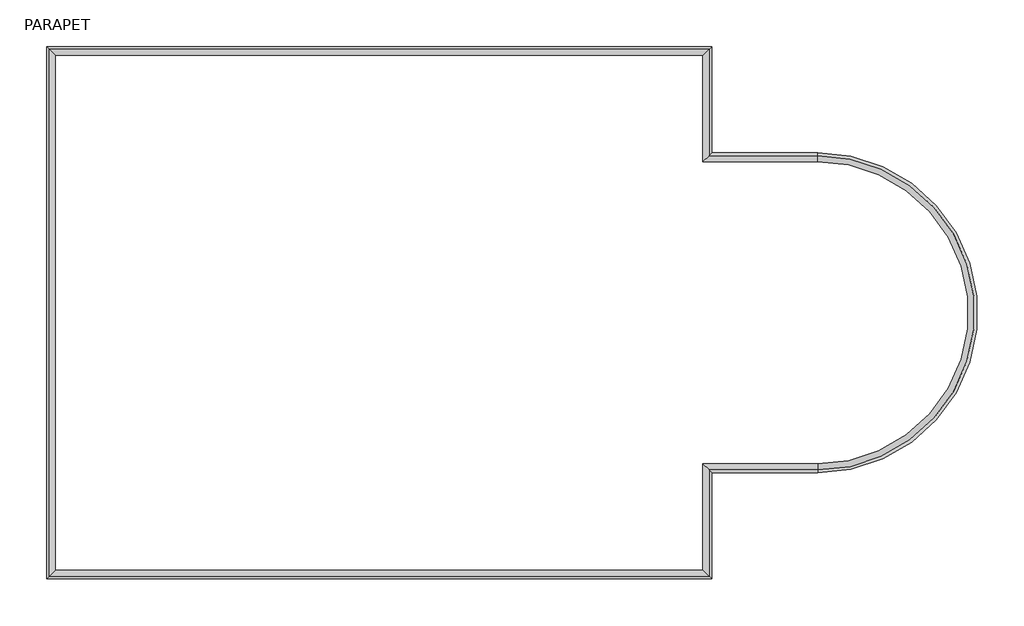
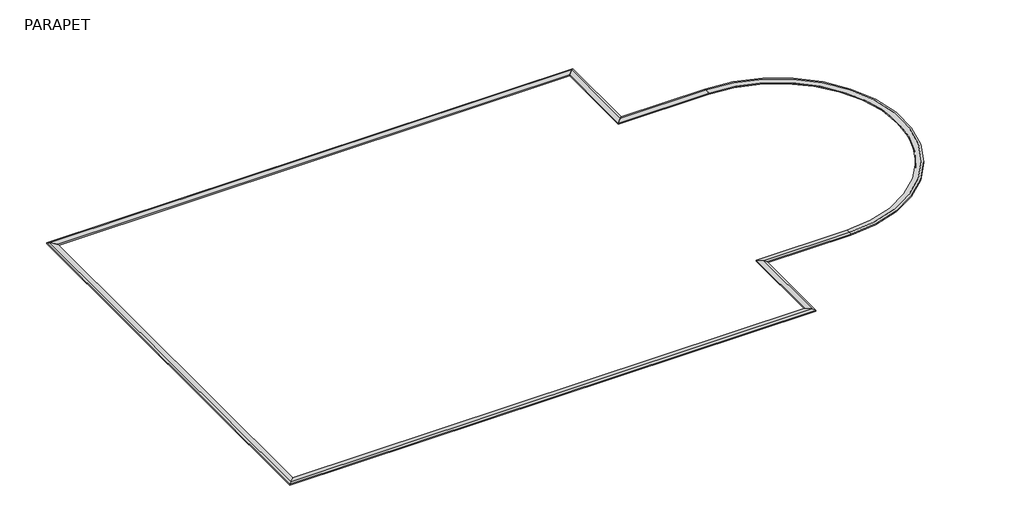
# One storey: 8 proxies.
"""IFC4 building model written with IfcOpenShell, lengths in millimetres."""

import ifcopenshell
import ifcopenshell.guid

model = None  # the IFC model being written
_history = None  # IfcOwnerHistory: only IFC2X3 demands one
_inside = {}  # id of a spatial element -> (the spatial element, [elements in it])
_under = {}  # id of a project, library or spatial element -> (it, [spatial elements below it])
_declared = {}  # id of a project -> (the project, [libraries it declares])
_typed = {}  # id of a type object -> (the type object, [elements of that type])
_made_of = {}  # id of a material, layer set ... -> (it, [elements and type objects made of it])


def new_model(schema):
    """Start an empty IFC model of exactly this schema.

    Asked for "IFC4X3", IfcOpenShell would pick the latest addendum, in which some entities
    have other attributes; the version numbers below select the first issue.
    IFC2X3 requires an IfcOwnerHistory on every rooted entity: one is made here for all.
    """
    global model, _history
    if schema == "IFC4X3":
        model = ifcopenshell.file(schema_version=(4, 3, 0, 0))
    else:
        model = ifcopenshell.file(schema=schema)
    _inside.clear()
    _under.clear()
    _declared.clear()
    _typed.clear()
    _made_of.clear()
    _history = None
    if model.schema == "IFC2X3":
        org = make("IfcOrganization", Name="unknown")
        user = make(
            "IfcPersonAndOrganization",
            ThePerson=make("IfcPerson", FamilyName="unknown"),
            TheOrganization=org,
        )
        app = make(
            "IfcApplication",
            ApplicationDeveloper=org,
            Version="unknown",
            ApplicationFullName="unknown",
            ApplicationIdentifier="unknown",
        )
        _history = make(
            "IfcOwnerHistory",
            OwningUser=user,
            OwningApplication=app,
            ChangeAction="ADDED",
            CreationDate=0,
        )
    return model


def make(cls, **values):
    """One entity of the class cls with the attributes given. An attribute that is None is left unset."""
    return model.create_entity(
        cls, **{name: value for name, value in values.items() if value is not None}
    )


def rooted(cls, **values):
    """An entity with a GlobalId (a new one), such as an element, a storey or a relation."""
    return make(cls, GlobalId=ifcopenshell.guid.new(), OwnerHistory=_history, **values)


def si_unit(unit_type, name, prefix=None):
    """IfcSIUnit, for example si_unit("LENGTHUNIT", "METRE", prefix="MILLI")."""
    return make("IfcSIUnit", UnitType=unit_type, Prefix=prefix, Name=name)


def assignment(units):
    """IfcUnitAssignment: the units of a project."""
    return None if units is None else make("IfcUnitAssignment", Units=units)


def point(xyz):
    """IfcCartesianPoint."""
    return None if xyz is None else make("IfcCartesianPoint", Coordinates=xyz)


def direction(xyz):
    """IfcDirection."""
    return None if xyz is None else make("IfcDirection", DirectionRatios=xyz)


def frame(location, z_axis=None, x_axis=None):
    """IfcAxis2Placement3D, a coordinate frame: its origin and axes. An axis left out is left unset."""
    return make(
        "IfcAxis2Placement3D",
        Location=point(location),
        Axis=direction(z_axis),
        RefDirection=direction(x_axis),
    )


def origin():
    """The frame at (0, 0, 0) with its axes left unset."""
    return frame((0.0, 0.0, 0.0))


def place(relative_to, where):
    """IfcLocalPlacement: puts the frame where relative to a parent placement (None: the world)."""
    return make(
        "IfcLocalPlacement", PlacementRelTo=relative_to, RelativePlacement=where
    )


def context(
    kind, dimensions, precision=None, world=None, true_north=None, identifier=None
):
    """IfcGeometricRepresentationContext, for example the 3D "Model" context."""
    return make(
        "IfcGeometricRepresentationContext",
        ContextIdentifier=identifier,
        ContextType=kind,
        CoordinateSpaceDimension=dimensions,
        Precision=precision,
        WorldCoordinateSystem=world,
        TrueNorth=true_north,
    )


def project(units=None, contexts=None):
    """IfcProject with its units and contexts."""
    return rooted(
        "IfcProject",
        Name="project",
        RepresentationContexts=contexts,
        UnitsInContext=assignment(units),
    )


def spatial(cls, under=None, at=None, **own):
    """A site, building, storey or space (cls), placed at a placement, below another one or the project."""
    s = rooted(cls, ObjectPlacement=at, **own)
    if under is not None:
        _under.setdefault(under.id(), (under, []))[1].append(s)
    return s


def polyline(points):
    """IfcPolyline through the points."""
    return make("IfcPolyline", Points=[point(p) for p in points])


def circle_curve(where, radius):
    """IfcCircle in the frame where."""
    return make("IfcCircle", Position=where, Radius=radius)


def faces_of(points, faces, orient=None, outer=None):
    """IfcFace entities. A face is a list of loops; a loop is a list of indices into points, from 0.

    orient and outer hold one flag for each loop. By default every Orientation is true, the
    first loop of a face is its IfcFaceOuterBound and the others are IfcFaceBound.
    """
    made = []
    for i, loops in enumerate(faces):
        bounds = []
        for j, loop in enumerate(loops):
            is_outer = j == 0 if outer is None else outer[i][j]
            bounds.append(
                make(
                    "IfcFaceOuterBound" if is_outer else "IfcFaceBound",
                    Bound=make("IfcPolyLoop", Polygon=[points[k] for k in loop]),
                    Orientation=True if orient is None else orient[i][j],
                )
            )
        made.append(make("IfcFace", Bounds=bounds))
    return made


def faceted_brep(points, faces, orient=None, outer=None, voids=None):
    """IfcFacetedBrep: a solid bounded by flat faces; with voids (closed shells), ...WithVoids."""
    shared = [point(p) for p in points]
    hull = make("IfcClosedShell", CfsFaces=faces_of(shared, faces, orient, outer))
    if voids is None:
        return make("IfcFacetedBrep", Outer=hull)
    return make(
        "IfcFacetedBrepWithVoids",
        Outer=hull,
        Voids=[
            make(cls, CfsFaces=faces_of(shared, fs, o, b)) for cls, fs, o, b in voids
        ],
    )


def shape(context_of_items, identifier, shape_type, items):
    """IfcShapeRepresentation: the items that make up one representation, for example the "Body"."""
    return make(
        "IfcShapeRepresentation",
        ContextOfItems=context_of_items,
        RepresentationIdentifier=identifier,
        RepresentationType=shape_type,
        Items=items,
    )


def made_of(thing, what):
    """Note that an element or type object is made of a material, layer set ...; save() writes the relation."""
    if what is not None:
        _made_of.setdefault(what.id(), (what, []))[1].append(thing)
    return thing


def element(
    cls,
    number,
    at=None,
    inside=None,
    cuts=None,
    type_object=None,
    material=None,
    context=None,
    identifier="Body",
    shape_type=None,
    held_by="IfcProductDefinitionShape",
    body=None,
    shapes=None,
    **own,
):
    """One element of the class cls, such as IfcWall. Its Tag is "e" and its number.

    at: its placement. inside: the storey or other place that contains it. cuts: it is an
    opening in that element (IfcRelVoidsElement). A single representation is given by context,
    identifier, shape_type and body (its items); several are given by shapes. held_by: the class
    of the entity that holds the representations. save() writes the other relations.
    """
    e = rooted(cls, Tag="e%d" % number, ObjectPlacement=at, **own)
    if body is not None:
        shapes = [shape(context, identifier, shape_type, body)]
    if shapes is not None:
        e.Representation = make(held_by, Representations=shapes)
    if inside is not None:
        _inside.setdefault(inside.id(), (inside, []))[1].append(e)
    if cuts is not None:
        rooted(
            "IfcRelVoidsElement", RelatingBuildingElement=cuts, RelatedOpeningElement=e
        )
    if type_object is not None:
        _typed.setdefault(type_object.id(), (type_object, []))[1].append(e)
    return made_of(e, material)


def aggregate(whole, parts):
    """IfcRelAggregates: a whole, such as a stair, and the parts it consists of."""
    return rooted("IfcRelAggregates", RelatingObject=whole, RelatedObjects=parts)


def save(model, path):
    """Write the relations noted so far, then the file.

    IfcRelAggregates (storeys below a building ...), IfcRelContainedInSpatialStructure (elements
    in a storey), IfcRelDefinesByType, IfcRelAssociatesMaterial and IfcRelDeclares: one each for
    every whole, place, type object, material and project.
    """
    for whole, parts in _under.values():
        aggregate(whole, parts)
    for where, things in _inside.values():
        rooted(
            "IfcRelContainedInSpatialStructure",
            RelatedElements=things,
            RelatingStructure=where,
        )
    for kind, things in _typed.values():
        rooted("IfcRelDefinesByType", RelatedObjects=things, RelatingType=kind)
    for what, things in _made_of.values():
        rooted("IfcRelAssociatesMaterial", RelatedObjects=things, RelatingMaterial=what)
    for by, libraries in _declared.values():
        rooted("IfcRelDeclares", RelatingContext=by, RelatedDefinitions=libraries)
    model.write(path)


def plane_surface(at):
    """IfcPlane: the flat surface through the origin of the frame at, square to its z axis."""
    return make("IfcPlane", Position=at)


def cylinder_surface(at, radius):
    """IfcCylindricalSurface: all points at the distance radius from the z axis of the frame at."""
    return make("IfcCylindricalSurface", Position=at, Radius=radius)


def revolved_surface(curve, axis_point, axis_direction):
    """IfcSurfaceOfRevolution: the curve turned about the line through axis_point along axis_direction."""
    return make(
        "IfcSurfaceOfRevolution",
        SweptCurve=make("IfcArbitraryOpenProfileDef", ProfileType="CURVE", Curve=curve),
        AxisPosition=make("IfcAxis1Placement", Location=point(axis_point), Axis=direction(axis_direction)),
    )


def advanced_brep(points, edges, surfaces, faces):
    """IfcAdvancedBrep: a solid bounded by faces that lie on surfaces and meet in shared edges.

    An edge is (start, end): straight between two places in points (the first is 0);
    or (start, end, curve); or (start, end, curve, False) where it runs against its curve.
    A face is (place in surfaces, loops), or (place, loops, False) where it looks against
    its surface's normal. A loop lists edges by number (the first is 1), with a minus sign
    where the edge is run from its end to its start. The first loop is the outer one.
    """
    corners = [point(p) for p in points]
    vertices = [make("IfcVertexPoint", VertexGeometry=c) for c in corners]
    made = []
    for start, end, *more in edges:
        made.append(
            make(
                "IfcEdgeCurve",
                EdgeStart=vertices[start],
                EdgeEnd=vertices[end],
                EdgeGeometry=more[0] if more else make("IfcPolyline", Points=[corners[start], corners[end]]),
                SameSense=more[1] if len(more) > 1 else True,
            )
        )
    hull = []
    for where, loops, *sense in faces:
        bounds = []
        for j, loop in enumerate(loops):
            ring = [make("IfcOrientedEdge", EdgeElement=made[abs(k) - 1], Orientation=k > 0) for k in loop]
            bounds.append(
                make(
                    "IfcFaceOuterBound" if j == 0 else "IfcFaceBound",
                    Bound=make("IfcEdgeLoop", EdgeList=ring),
                    Orientation=True,
                )
            )
        hull.append(make("IfcAdvancedFace", Bounds=bounds, FaceSurface=surfaces[where], SameSense=sense[0] if sense else True))
    return make("IfcAdvancedBrep", Outer=make("IfcClosedShell", CfsFaces=hull))


model = new_model("IFC4")

# Units and contexts
model_context = context("Model", 3, world=origin())
ifc_project = project(units=[si_unit("LENGTHUNIT", "METRE", prefix="MILLI")], contexts=[model_context])

# Site, building, storey
site = spatial("IfcSite", under=ifc_project)
building = spatial("IfcBuilding", under=site)
storey = spatial("IfcBuildingStorey", under=building, Name="PARAPET", Elevation=19507.2)

# Proxies
placement = place(None, origin())
element("IfcBuildingElementProxy", 1, Name="Wall Sweeps", at=placement, inside=storey, context=model_context, shape_type="Brep", body=[
    faceted_brep([(12680.1339721, -14316.8101681, 19570.7), (12959.5339721, -14596.2101681, 19608.8), (13086.5339721, -14723.2101681, 19570.7), (13086.5339721, -14723.2101681, 19507.2), (12680.1339721, -14316.8101681, 19507.2), (-17037.8660279, -14316.8101681, 19570.7), (-17037.8660279, -14316.8101681, 19507.2), (-17444.2660279, -14723.2101681, 19507.2), (-17444.2660279, -14723.2101681, 19570.7), (-17317.2660279, -14596.2101681, 19608.8)], [[[0, 1, 2, 3, 4]], [[5, 6, 7, 8, 9]], [[1, 0, 5, 9]], [[2, 1, 9, 8]], [[3, 2, 8, 7]], [[4, 3, 7, 6]], [[0, 4, 6, 5]]]),
])
element("IfcBuildingElementProxy", 2, Name="Wall Sweeps", at=placement, inside=storey, context=model_context, shape_type="Brep", body=[
    faceted_brep([(-17037.8660279, -14316.8101681, 19570.7), (-17317.2660279, -14596.2101681, 19608.8), (-17444.2660279, -14723.2101681, 19570.7), (-17444.2660279, -14723.2101681, 19507.2), (-17037.8660279, -14316.8101681, 19507.2), (-17037.8660279, 9305.1898319, 19570.7), (-17037.8660279, 9305.1898319, 19507.2), (-17444.2660279, 9711.5898319, 19507.2), (-17444.2660279, 9711.5898319, 19570.7), (-17317.2660279, 9584.5898319, 19608.8)], [[[0, 1, 2, 3, 4]], [[5, 6, 7, 8, 9]], [[1, 0, 5, 9]], [[2, 1, 9, 8]], [[3, 2, 8, 7]], [[4, 3, 7, 6]], [[0, 4, 6, 5]]]),
])
element("IfcBuildingElementProxy", 3, Name="Wall Sweeps", at=placement, inside=storey, context=model_context, shape_type="Brep", body=[
    faceted_brep([(-17037.8660279, 9305.1898319, 19570.7), (-17317.2660279, 9584.5898319, 19608.8), (-17444.2660279, 9711.5898319, 19570.7), (-17444.2660279, 9711.5898319, 19507.2), (-17037.8660279, 9305.1898319, 19507.2), (12680.1339721, 9305.1898319, 19570.7), (12680.1339721, 9305.1898319, 19507.2), (13086.5339721, 9711.5898319, 19507.2), (13086.5339721, 9711.5898319, 19570.7), (12959.5339721, 9584.5898319, 19608.8)], [[[0, 1, 2, 3, 4]], [[5, 6, 7, 8, 9]], [[1, 0, 5, 9]], [[2, 1, 9, 8]], [[3, 2, 8, 7]], [[4, 3, 7, 6]], [[0, 4, 6, 5]]]),
])
element("IfcBuildingElementProxy", 4, Name="Wall Sweeps", at=placement, inside=storey, context=model_context, shape_type="Brep", body=[
    faceted_brep([(12680.1339721, 9305.1898319, 19570.7), (12959.5339721, 9584.5898319, 19608.8), (13086.5339721, 9711.5898319, 19570.7), (13086.5339721, 9711.5898319, 19507.2), (12680.1339721, 9305.1898319, 19507.2), (12680.1339721, 4428.3898319, 19570.7), (12680.1339721, 4428.3898319, 19507.2), (13086.5339721, 4834.7898319, 19507.2), (13086.5339721, 4834.7898319, 19570.7), (12959.5339721, 4707.7898319, 19608.8)], [[[0, 1, 2, 3, 4]], [[5, 6, 7, 8, 9]], [[1, 0, 5, 9]], [[2, 1, 9, 8]], [[3, 2, 8, 7]], [[4, 3, 7, 6]], [[0, 4, 6, 5]]]),
])
element("IfcBuildingElementProxy", 5, Name="Wall Sweeps", at=placement, inside=storey, context=model_context, shape_type="Brep", body=[
    faceted_brep([(12680.1339721, 4428.3898319, 19570.7), (12959.5339721, 4707.7898319, 19608.8), (13086.5339721, 4834.7898319, 19570.7), (13086.5339721, 4834.7898319, 19507.2), (12680.1339721, 4428.3898319, 19507.2), (17937.9339721, 4428.3898319, 19570.7), (17937.9339721, 4428.3898319, 19507.2), (17937.9339721, 4456.9648319, 19507.2), (17937.9339721, 4809.3898319, 19507.2), (17937.9339721, 4834.7898319, 19507.2), (17937.9339721, 4834.7898319, 19570.7), (17937.9339721, 4707.7898319, 19608.8)], [[[0, 1, 2, 3, 4]], [[5, 6, 7, 8, 9, 10, 11]], [[1, 0, 5, 11]], [[2, 1, 11, 10]], [[3, 2, 10, 9]], [[4, 3, 9, 8, 7, 6]], [[0, 4, 6, 5]]]),
])
element("IfcBuildingElementProxy", 6, Name="Wall Sweeps", at=placement, inside=storey, context=model_context, shape_type="Brep", body=[
    faceted_brep([(12680.1339721, -14316.8101681, 19570.7), (12680.1339721, -14316.8101681, 19507.2), (13086.5339721, -14723.2101681, 19507.2), (13086.5339721, -14723.2101681, 19570.7), (12959.5339721, -14596.2101681, 19608.8), (12680.1339721, -9440.0101681, 19570.7), (12959.5339721, -9719.4101681, 19608.8), (13086.5339721, -9846.4101681, 19570.7), (13086.5339721, -9846.4101681, 19507.2), (12680.1339721, -9440.0101681, 19507.2)], [[[0, 1, 2, 3, 4]], [[5, 6, 7, 8, 9]], [[0, 4, 6, 5]], [[4, 3, 7, 6]], [[3, 2, 8, 7]], [[2, 1, 9, 8]], [[1, 0, 5, 9]]]),
])
element("IfcBuildingElementProxy", 7, Name="Wall Sweeps", at=placement, inside=storey, context=model_context, shape_type="Brep", body=[
    faceted_brep([(12680.1339721, -9440.0101681, 19570.7), (12680.1339721, -9440.0101681, 19507.2), (13086.5339721, -9846.4101681, 19507.2), (13086.5339721, -9846.4101681, 19570.7), (12959.5339721, -9719.4101681, 19608.8), (17937.9339721, -9440.0101681, 19570.7), (17937.9339721, -9719.4101681, 19608.8), (17937.9339721, -9846.4101681, 19570.7), (17937.9339721, -9846.4101681, 19507.2), (17937.9339721, -9821.0101681, 19507.2), (17937.9339721, -9468.5851681, 19507.2), (17937.9339721, -9440.0101681, 19507.2)], [[[0, 1, 2, 3, 4]], [[5, 6, 7, 8, 9, 10, 11]], [[0, 4, 6, 5]], [[4, 3, 7, 6]], [[3, 2, 8, 7]], [[2, 1, 11, 10, 9, 8]], [[1, 0, 5, 11]]]),
])
element("IfcBuildingElementProxy", 8, Name="Wall Sweeps", at=placement, inside=storey, context=model_context, shape_type="AdvancedBrep", body=[
    advanced_brep(
    [(17937.9339721, -9719.4101681, 19608.8), (17937.9339721, 4707.7898319, 19608.8), (17937.9339721, 4428.3898319, 19570.7), (17937.9339721, -9440.0101681, 19570.7), (17937.9339721, -9846.4101681, 19570.7), (17937.9339721, 4834.7898319, 19570.7), (17937.9339721, -9846.4101681, 19507.2), (17937.9339721, 4834.7898319, 19507.2), (17937.9339721, -9440.0101681, 19507.2), (17937.9339721, 4428.3898319, 19507.2), (17937.9339721, 4456.9648319, 19507.2), (17937.9339721, 4809.3898319, 19507.2), (17937.9339721, -9821.0101681, 19507.2), (17937.9339721, -9468.5851681, 19507.2)],
    [
        (0, 1, circle_curve(frame((17937.9339721, -2505.8101681, 19608.8), z_axis=(0.0, 0.0, 1.0), x_axis=(0.0, 1.0, 0.0)), 7213.6)),
        (1, 2),
        (2, 3, circle_curve(frame((17937.9339721, -2505.8101681, 19570.7), z_axis=(0.0, 0.0, -1.0), x_axis=(0.0, 1.0, 0.0)), 6934.2)),
        (3, 0),
        (4, 5, circle_curve(frame((17937.9339721, -2505.8101681, 19570.7), z_axis=(0.0, 0.0, 1.0), x_axis=(0.0, 1.0, 0.0)), 7340.6)),
        (5, 1),
        (0, 4),
        (6, 7, circle_curve(frame((17937.9339721, -2505.8101681, 19507.2), z_axis=(0.0, 0.0, 1.0), x_axis=(0.0, 1.0, 0.0)), 7340.6)),
        (7, 5),
        (4, 6),
        (8, 9, circle_curve(frame((17937.9339721, -2505.8101681, 19507.2), z_axis=(0.0, 0.0, 1.0), x_axis=(0.0, 1.0, 0.0)), 6934.2)),
        (9, 10),
        (10, 11),
        (11, 7),
        (6, 12),
        (12, 13),
        (13, 8),
        (2, 9),
        (8, 3),
    ],
    [
        revolved_surface(polyline([(17937.9339721, 4428.3898319, 19570.7), (17937.9339721, 4707.7898319, 19608.8)]), (17937.9339721, -2505.8101681, 19507.2), (0.0, 0.0, -1.0)),
        revolved_surface(polyline([(17937.9339721, 4707.7898319, 19608.8), (17937.9339721, 4834.7898319, 19570.7)]), (17937.9339721, -2505.8101681, 19507.2), (0.0, 0.0, -1.0)),
        cylinder_surface(frame((17937.9339721, -2505.8101681, 19507.2), z_axis=(0.0, 0.0, -1.0), x_axis=(0.0, 1.0, 0.0)), 7340.6),
        plane_surface(frame((17937.9339721, -2505.8101681, 19507.2), z_axis=(0.0, 0.0, -1.0), x_axis=(0.0, 1.0, 0.0))),
        revolved_surface(polyline([(17937.9339721, 4428.3898319, 19507.2), (17937.9339721, 4428.3898319, 19570.7)]), (17937.9339721, -2505.8101681, 19507.2), (0.0, 0.0, -1.0)),
        plane_surface(frame((17937.9339721, 5114.1898319, 19507.2), z_axis=(-1.0, 0.0, 0.0), x_axis=(0.0, 0.0, 1.0))),
        plane_surface(frame((17937.9339721, -10125.8101681, 19507.2), z_axis=(-1.0, 0.0, 0.0), x_axis=(0.0, 0.0, 1.0))),
    ],
    [
        (0, [[1, 2, 3, 4]]),
        (1, [[5, 6, -1, 7]]),
        (2, [[8, 9, -5, 10]]),
        (3, [[11, 12, 13, 14, -8, 15, 16, 17]]),
        (4, [[-3, 18, -11, 19]]),
        (5, [[-2, -6, -9, -14, -13, -12, -18]]),
        (6, [[-19, -17, -16, -15, -10, -7, -4]]),
    ],
),
])

save(model, "model.ifc")
